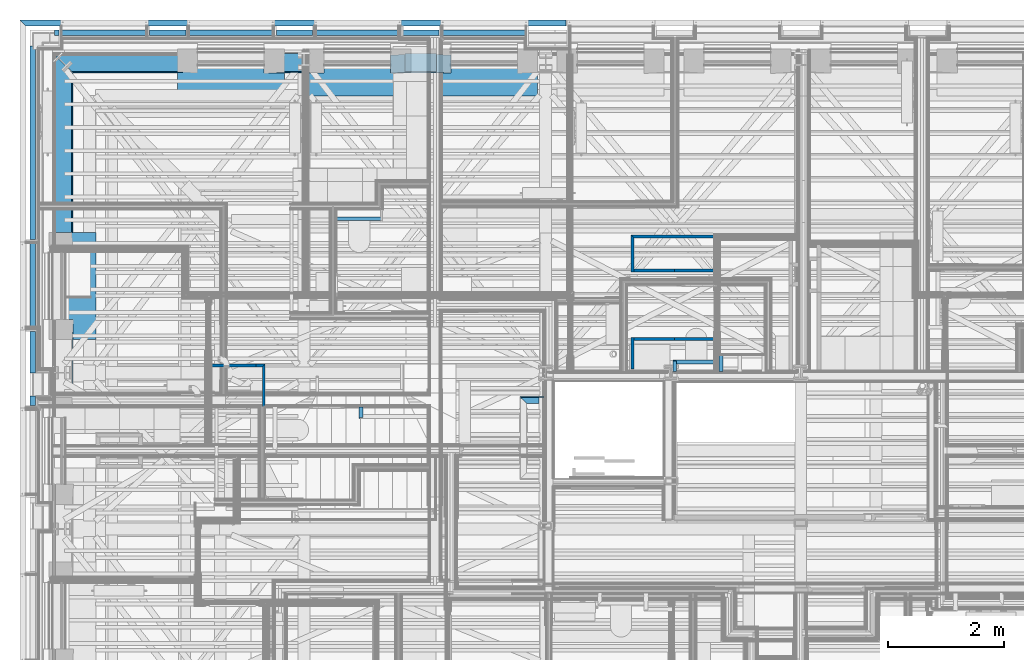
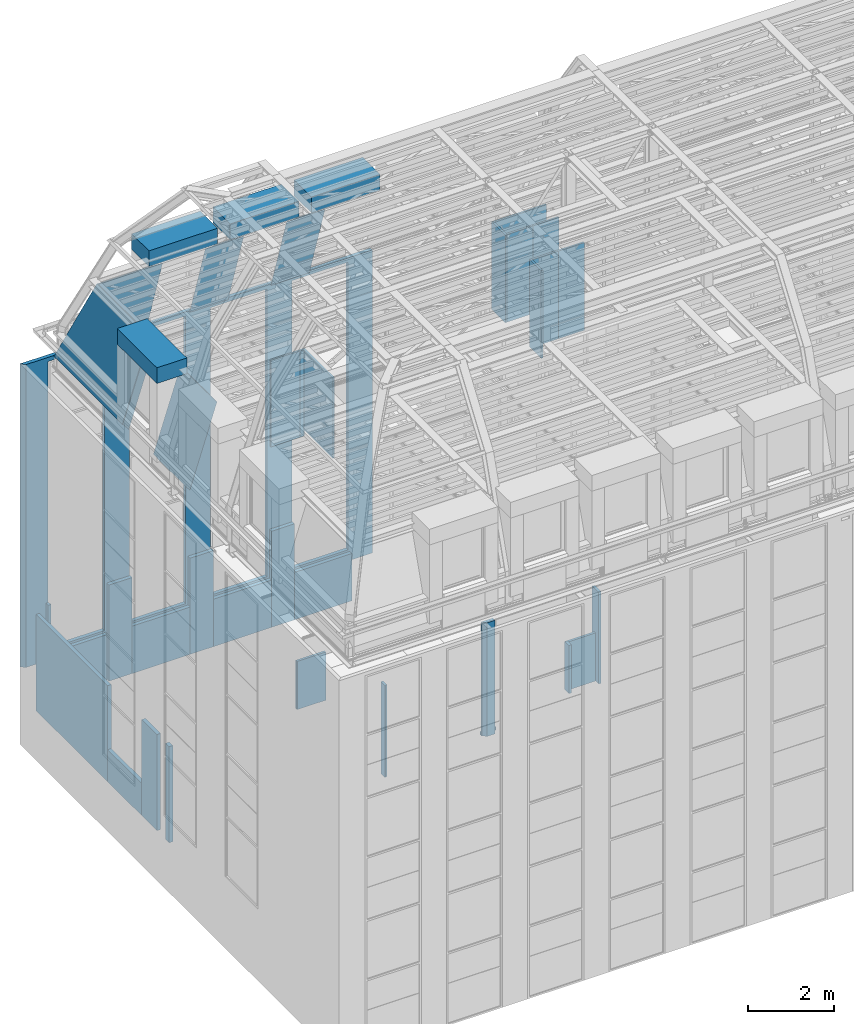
# One storey, part 16 of 183: 42 walls, 4 openings.
"""IFC2X3 building model written with IfcOpenShell, lengths in metres."""

from ifc_helpers import new_model, entity, si_unit, converted_unit, derived_unit, money_unit, direction, frame, frame_2d, origin_with_axes, place, context, subcontext, project, spatial, polyline, rectangle, outline, extrude, clip, halfspace, bounded_halfspace, material, layer, layer_set, layer_usage, type_object, element, save


model = new_model("IFC2X3")

# Units and contexts
model_context = context("Model", 3, precision=1e-05, world=origin_with_axes(), true_north=direction((0.0, 1.0)))
body_context = subcontext(model_context, "Body", "Model", "MODEL_VIEW", scale=1.0)
ifc_project = project(units=[si_unit("LENGTHUNIT", "METRE"), si_unit("AREAUNIT", "SQUARE_METRE"), si_unit("VOLUMEUNIT", "CUBIC_METRE"), si_unit("ABSORBEDDOSEUNIT", "GRAY"), si_unit("AMOUNTOFSUBSTANCEUNIT", "MOLE"), si_unit("DOSEEQUIVALENTUNIT", "SIEVERT"), si_unit("ELECTRICCAPACITANCEUNIT", "FARAD"), si_unit("ELECTRICCHARGEUNIT", "COULOMB"), si_unit("ELECTRICCONDUCTANCEUNIT", "SIEMENS"), si_unit("ELECTRICCURRENTUNIT", "AMPERE"), si_unit("ELECTRICRESISTANCEUNIT", "OHM"), si_unit("ELECTRICVOLTAGEUNIT", "VOLT"), si_unit("ENERGYUNIT", "JOULE"), si_unit("FORCEUNIT", "NEWTON"), si_unit("FREQUENCYUNIT", "HERTZ"), si_unit("ILLUMINANCEUNIT", "LUX"), si_unit("INDUCTANCEUNIT", "HENRY"), si_unit("LUMINOUSFLUXUNIT", "LUMEN"), si_unit("LUMINOUSINTENSITYUNIT", "CANDELA"), si_unit("MAGNETICFLUXDENSITYUNIT", "TESLA"), si_unit("MAGNETICFLUXUNIT", "WEBER"), si_unit("MASSUNIT", "GRAM"), converted_unit("PLANEANGLEUNIT", "degree", entity("IfcReal", 0.0174532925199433), si_unit("PLANEANGLEUNIT", "RADIAN"), dimensions=[0, 0, 0, 0, 0, 0, 0]), si_unit("POWERUNIT", "WATT"), si_unit("PRESSUREUNIT", "PASCAL"), si_unit("RADIOACTIVITYUNIT", "BECQUEREL"), si_unit("SOLIDANGLEUNIT", "STERADIAN"), si_unit("THERMODYNAMICTEMPERATUREUNIT", "KELVIN"), si_unit("TIMEUNIT", "SECOND"), derived_unit("ACCELERATIONUNIT", [(si_unit("LENGTHUNIT", "METRE"), 1), (si_unit("TIMEUNIT", "SECOND"), -2)]), derived_unit("ANGULARVELOCITYUNIT", [(converted_unit("PLANEANGLEUNIT", "degree", entity("IfcReal", 0.0174532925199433), si_unit("PLANEANGLEUNIT", "RADIAN"), dimensions=[0, 0, 0, 0, 0, 0, 0]), 1), (si_unit("TIMEUNIT", "SECOND"), -1)]), derived_unit("CURVATUREUNIT", [(converted_unit("PLANEANGLEUNIT", "degree", entity("IfcReal", 0.0174532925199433), si_unit("PLANEANGLEUNIT", "RADIAN"), dimensions=[0, 0, 0, 0, 0, 0, 0]), 1), (si_unit("LENGTHUNIT", "METRE"), -1)]), derived_unit("DYNAMICVISCOSITYUNIT", [(si_unit("PRESSUREUNIT", "PASCAL"), 1), (si_unit("TIMEUNIT", "SECOND"), 1)]), derived_unit("HEATFLUXDENSITYUNIT", [(si_unit("POWERUNIT", "WATT"), 1), (si_unit("LENGTHUNIT", "METRE"), -2)]), derived_unit("HEATINGVALUEUNIT", [(si_unit("ENERGYUNIT", "JOULE"), 1), (si_unit("MASSUNIT", "GRAM"), -1)]), derived_unit("INTEGERCOUNTRATEUNIT", [(si_unit("TIMEUNIT", "SECOND"), -1)]), derived_unit("IONCONCENTRATIONUNIT", [(si_unit("MASSUNIT", "GRAM"), 1), (si_unit("VOLUMEUNIT", "CUBIC_METRE"), -1)]), derived_unit("ISOTHERMALMOISTURECAPACITYUNIT", [(si_unit("VOLUMEUNIT", "CUBIC_METRE"), 1), (si_unit("MASSUNIT", "GRAM"), -1)]), derived_unit("KINEMATICVISCOSITYUNIT", [(si_unit("AREAUNIT", "SQUARE_METRE"), 1), (si_unit("TIMEUNIT", "SECOND"), -1)]), derived_unit("LINEARFORCEUNIT", [(si_unit("FORCEUNIT", "NEWTON"), 1), (si_unit("LENGTHUNIT", "METRE"), -1)]), derived_unit("LINEARMOMENTUNIT", [(si_unit("FORCEUNIT", "NEWTON"), 1), (si_unit("LENGTHUNIT", "METRE"), -1)]), derived_unit("LINEARSTIFFNESSUNIT", [(si_unit("FORCEUNIT", "NEWTON"), 1), (si_unit("LENGTHUNIT", "METRE"), -1)]), derived_unit("LINEARVELOCITYUNIT", [(si_unit("LENGTHUNIT", "METRE"), 1), (si_unit("TIMEUNIT", "SECOND"), -1)]), derived_unit("LUMINOUSINTENSITYDISTRIBUTIONUNIT", [(si_unit("LUMINOUSINTENSITYUNIT", "CANDELA"), 1), (si_unit("LUMINOUSFLUXUNIT", "LUMEN"), -1)]), derived_unit("MASSDENSITYUNIT", [(si_unit("MASSUNIT", "GRAM"), 1), (si_unit("VOLUMEUNIT", "CUBIC_METRE"), -1)]), derived_unit("MASSFLOWRATEUNIT", [(si_unit("MASSUNIT", "GRAM"), 1), (si_unit("TIMEUNIT", "SECOND"), -1)]), derived_unit("MASSPERLENGTHUNIT", [(si_unit("MASSUNIT", "GRAM"), 1), (si_unit("LENGTHUNIT", "METRE"), -1)]), derived_unit("MODULUSOFELASTICITYUNIT", [(si_unit("FORCEUNIT", "NEWTON"), 1), (si_unit("AREAUNIT", "SQUARE_METRE"), -1)]), derived_unit("MODULUSOFLINEARSUBGRADEREACTIONUNIT", [(si_unit("FORCEUNIT", "NEWTON"), 1), (si_unit("LENGTHUNIT", "METRE"), -2)]), derived_unit("MODULUSOFROTATIONALSUBGRADEREACTIONUNIT", [(si_unit("FORCEUNIT", "NEWTON"), 1), (si_unit("LENGTHUNIT", "METRE"), 1)]), derived_unit("MODULUSOFSUBGRADEREACTIONUNIT", [(si_unit("FORCEUNIT", "NEWTON"), 1), (si_unit("VOLUMEUNIT", "CUBIC_METRE"), -1)]), derived_unit("MOISTUREDIFFUSIVITYUNIT", [(si_unit("VOLUMEUNIT", "CUBIC_METRE"), 1), (si_unit("TIMEUNIT", "SECOND"), -1)]), derived_unit("MOLECULARWEIGHTUNIT", [(si_unit("MASSUNIT", "GRAM"), 1), (si_unit("AMOUNTOFSUBSTANCEUNIT", "MOLE"), -1)]), derived_unit("PLANARFORCEUNIT", [(si_unit("FORCEUNIT", "NEWTON"), 1), (si_unit("LENGTHUNIT", "METRE"), -2)]), derived_unit("ROTATIONALFREQUENCYUNIT", [(si_unit("TIMEUNIT", "SECOND"), -1)]), derived_unit("ROTATIONALMASSUNIT", [(si_unit("MASSUNIT", "GRAM"), 1), (si_unit("LENGTHUNIT", "METRE"), 2)]), derived_unit("ROTATIONALSTIFFNESSUNIT", [(si_unit("FORCEUNIT", "NEWTON"), 1), (si_unit("LENGTHUNIT", "METRE"), 1), (converted_unit("PLANEANGLEUNIT", "degree", entity("IfcReal", 0.0174532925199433), si_unit("PLANEANGLEUNIT", "RADIAN"), dimensions=[0, 0, 0, 0, 0, 0, 0]), -1)]), derived_unit("SECTIONAREAINTEGRALUNIT", [(si_unit("LENGTHUNIT", "METRE"), 5)]), derived_unit("SECTIONMODULUSUNIT", [(si_unit("LENGTHUNIT", "METRE"), 3)]), derived_unit("SHEARMODULUSUNIT", [(si_unit("FORCEUNIT", "NEWTON"), 1), (si_unit("AREAUNIT", "SQUARE_METRE"), -1)]), derived_unit("SOUNDPOWERUNIT", [(si_unit("ENERGYUNIT", "JOULE"), 1), (si_unit("TIMEUNIT", "SECOND"), -1)]), derived_unit("SPECIFICHEATCAPACITYUNIT", [(si_unit("FORCEUNIT", "NEWTON"), 1), (si_unit("MASSUNIT", "GRAM"), -1), (si_unit("THERMODYNAMICTEMPERATUREUNIT", "KELVIN"), -1)]), derived_unit("TEMPERATUREGRADIENTUNIT", [(si_unit("THERMODYNAMICTEMPERATUREUNIT", "KELVIN"), 1), (si_unit("LENGTHUNIT", "METRE"), -1)]), derived_unit("THERMALADMITTANCEUNIT", [(si_unit("POWERUNIT", "WATT"), 1), (si_unit("AREAUNIT", "SQUARE_METRE"), -1), (si_unit("THERMODYNAMICTEMPERATUREUNIT", "KELVIN"), -1)]), derived_unit("THERMALCONDUCTANCEUNIT", [(si_unit("POWERUNIT", "WATT"), 1), (si_unit("LENGTHUNIT", "METRE"), -1), (si_unit("THERMODYNAMICTEMPERATUREUNIT", "KELVIN"), -1)]), derived_unit("THERMALEXPANSIONCOEFFICIENTUNIT", [(si_unit("THERMODYNAMICTEMPERATUREUNIT", "KELVIN"), -1)]), derived_unit("THERMALRESISTANCEUNIT", [(si_unit("AREAUNIT", "SQUARE_METRE"), 1), (si_unit("POWERUNIT", "WATT"), -1)]), derived_unit("THERMALTRANSMITTANCEUNIT", [(si_unit("POWERUNIT", "WATT"), 1), (si_unit("AREAUNIT", "SQUARE_METRE"), -1), (si_unit("THERMODYNAMICTEMPERATUREUNIT", "KELVIN"), -1)]), derived_unit("TORQUEUNIT", [(si_unit("FORCEUNIT", "NEWTON"), 1), (si_unit("LENGTHUNIT", "METRE"), 1)]), derived_unit("VAPORPERMEABILITYUNIT", [(si_unit("MASSUNIT", "GRAM"), 1), (si_unit("TIMEUNIT", "SECOND"), -1)]), derived_unit("VOLUMETRICFLOWRATEUNIT", [(si_unit("VOLUMEUNIT", "CUBIC_METRE"), 1), (si_unit("TIMEUNIT", "SECOND"), -1)]), derived_unit("WARPINGCONSTANTUNIT", [(si_unit("LENGTHUNIT", "METRE"), 6)]), derived_unit("WARPINGMOMENTUNIT", [(si_unit("FORCEUNIT", "NEWTON"), 1), (si_unit("LENGTHUNIT", "METRE"), 2)]), money_unit("GBP")], contexts=[model_context])

# Site, building, storey
site_placement = place(None, origin_with_axes())
site = spatial("IfcSite", under=ifc_project, at=site_placement, Name="Site", CompositionType="ELEMENT")
building_placement = place(site_placement, origin_with_axes())
building = spatial("IfcBuilding", under=site, at=building_placement, Name="Building01", CompositionType="ELEMENT")
storey_placement = place(building_placement, frame((0.0, 0.0, 5.15), z_axis=(0.0, 0.0, 1.0), x_axis=(1.0, 0.0, 0.0)))
storey = spatial("IfcBuildingStorey", under=building, at=storey_placement, Name="1F", CompositionType="ELEMENT", Elevation=5.15)

# Wall, openings
ifc_material_1 = material(Name="A_BSUK_WallsExternal_Brick")
ifc_layer_1 = layer(ifc_material_1, 0.1, ventilated=False)
ifc_layer_set_1 = layer_set([ifc_layer_1])
ifc_layer_usage_1 = layer_usage(ifc_layer_set_1, "AXIS2", "POSITIVE", 0.0)
wall_type_1 = type_object("IfcWallType", Name="A-Walls-ExternalBrick", PredefinedType="NOTDEFINED")
wall_1_placement = place(storey_placement, frame((9.443277, 14.9, 1.035), z_axis=(0.0, 0.0, 1.0), x_axis=(-1.0, 0.0, 0.0)))
wall_1 = element("IfcWallStandardCase", 1, at=wall_1_placement, inside=storey, type_object=wall_type_1, material=ifc_layer_usage_1, Name="A-Walls-ExternalBrick", ObjectType="A-Walls-ExternalBrick", context=body_context, shape_type="SweptSolid", body=[
    extrude(outline(polyline([(9.343277, 0.1), (0.0, 0.1), (0.0, 0.0), (9.443277, 0.0), (9.343277, 0.1)])), origin_with_axes(), (0.0, 0.0, 1.0), 8.635238),
])
opening_1_placement = place(wall_1_placement, frame((0.653277, 0.0, 0.315918), z_axis=(0.0, 0.0, 1.0), x_axis=(1.0, 0.0, 0.0)))
element("IfcOpeningElement", 2, at=opening_1_placement, cuts=wall_1, Name="Opening", ObjectType="Opening", context=body_context, shape_type="SweptSolid", body=[
    extrude(rectangle(XDim=1.52, YDim=8.2, at=frame_2d((-0.76, 4.1), x_axis=(1.0, 0.0))), frame((0.0, 0.0, 0.0), z_axis=(0.0, 1.0, 0.0), x_axis=(-1.0, 0.0, 0.0)), (0.0, 0.0, 1.0), 0.1),
])
opening_2_placement = place(wall_1_placement, frame((2.843277, 0.0, 0.315918), z_axis=(0.0, 0.0, 1.0), x_axis=(1.0, 0.0, 0.0)))
element("IfcOpeningElement", 3, at=opening_2_placement, cuts=wall_1, Name="Opening", ObjectType="Opening", context=body_context, shape_type="SweptSolid", body=[
    extrude(rectangle(XDim=1.52, YDim=8.2, at=frame_2d((-0.76, 4.1), x_axis=(1.0, 0.0))), frame((0.0, 0.0, 0.0), z_axis=(0.0, 1.0, 0.0), x_axis=(-1.0, 0.0, 0.0)), (0.0, 0.0, 1.0), 0.1),
])
opening_3_placement = place(wall_1_placement, frame((5.033277, 0.0, 0.315918), z_axis=(0.0, 0.0, 1.0), x_axis=(1.0, 0.0, 0.0)))
element("IfcOpeningElement", 4, at=opening_3_placement, cuts=wall_1, Name="Opening", ObjectType="Opening", context=body_context, shape_type="SweptSolid", body=[
    extrude(rectangle(XDim=1.52, YDim=8.2, at=frame_2d((-0.76, 4.1), x_axis=(1.0, 0.0))), frame((0.0, 0.0, 0.0), z_axis=(0.0, 1.0, 0.0), x_axis=(-1.0, 0.0, 0.0)), (0.0, 0.0, 1.0), 0.1),
])
opening_4_placement = place(wall_1_placement, frame((7.223277, 0.0, 0.315918), z_axis=(0.0, 0.0, 1.0), x_axis=(1.0, 0.0, 0.0)))
element("IfcOpeningElement", 5, at=opening_4_placement, cuts=wall_1, Name="Opening", ObjectType="Opening", context=body_context, shape_type="SweptSolid", body=[
    extrude(rectangle(XDim=1.52, YDim=8.2, at=frame_2d((-0.76, 4.1), x_axis=(1.0, 0.0))), frame((0.0, 0.0, 0.0), z_axis=(0.0, 1.0, 0.0), x_axis=(-1.0, 0.0, 0.0)), (0.0, 0.0, 1.0), 0.1),
])

# Walls
ifc_material_2 = material(Name="A_BSUK_WallsExternal_Block")
ifc_layer_2 = layer(ifc_material_2, 0.1, ventilated=False)
ifc_layer_set_2 = layer_set([ifc_layer_2])
ifc_layer_usage_2 = layer_usage(ifc_layer_set_2, "AXIS2", "POSITIVE", 0.0)
wall_type_2 = type_object("IfcWallType", Name="A-Walls-ExternalBlock", PredefinedType="NOTDEFINED")
wall_2_placement = place(storey_placement, frame((0.6, 14.63, 0.0), z_axis=(0.0, 0.0, 1.0), x_axis=(1.0, 0.0, 0.0)))
element("IfcWallStandardCase", 6, at=wall_2_placement, inside=storey, type_object=wall_type_2, material=ifc_layer_usage_2, Name="A-Walls-ExternalBlock", ObjectType="A-Walls-ExternalBlock", context=body_context, shape_type="SweptSolid", body=[
    extrude(rectangle(XDim=0.077, YDim=0.1, at=frame_2d((0.0385, 0.05), x_axis=(-1.0, 0.0))), origin_with_axes(), (0.0, 0.0, 1.0), 2.74),
])
wall_3_placement = place(storey_placement, frame((0.17, 14.45, 0.0), z_axis=(0.0, 0.0, 1.0), x_axis=(0.0, -1.0, 0.0)))
element("IfcWallStandardCase", 7, at=wall_3_placement, inside=storey, type_object=wall_type_2, material=ifc_layer_usage_2, Name="A-Walls-ExternalBlock", ObjectType="A-Walls-ExternalBlock", context=body_context, shape_type="SweptSolid", body=[
    extrude(rectangle(XDim=3.347, YDim=0.1, at=frame_2d((1.6735, 0.05), x_axis=(-1.0, 0.0))), origin_with_axes(), (0.0, 0.0, 1.0), 2.74),
])
wall_4_placement = place(storey_placement, frame((0.17, 8.4, 0.0), z_axis=(0.0, 0.0, 1.0), x_axis=(0.0, -1.0, 0.0)))
element("IfcWallStandardCase", 8, at=wall_4_placement, inside=storey, type_object=wall_type_2, material=ifc_layer_usage_2, Name="A-Walls-ExternalBlock", ObjectType="A-Walls-ExternalBlock", context=body_context, shape_type="SweptSolid", body=[
    extrude(rectangle(XDim=0.167, YDim=0.1, at=frame_2d((0.0835, 0.05), x_axis=(-1.0, 0.0))), origin_with_axes(), (0.0, 0.0, 1.0), 2.74),
])
for number, where, z_axis, x_axis, name in (
    (9, (2.243, 14.63, 0.0), (0.0, 0.0, 1.0), (1.0, 0.0, 0.0), "A-Walls-ExternalBlock"),
    (10, (4.433, 14.63, 0.0), (0.0, 0.0, 1.0), (1.0, 0.0, 0.0), "A-Walls-ExternalBlock"),
):
    element("IfcWallStandardCase", number, at=place(storey_placement, frame(where, z_axis=z_axis, x_axis=x_axis)), inside=storey, type_object=wall_type_2, material=ifc_layer_usage_2, Name=name, ObjectType="A-Walls-ExternalBlock", context=body_context, shape_type="SweptSolid", body=[
        extrude(rectangle(XDim=0.624, YDim=0.1, at=frame_2d((0.312, 0.05), x_axis=(-1.0, 0.0))), origin_with_axes(), (0.0, 0.0, 1.0), 2.74),
    ])
wall_5_placement = place(storey_placement, frame((6.622876, 14.63, 0.0), z_axis=(0.0, 0.0, 1.0), x_axis=(1.0, 0.0, 0.0)))
element("IfcWallStandardCase", 11, at=wall_5_placement, inside=storey, type_object=wall_type_2, material=ifc_layer_usage_2, Name="A-Walls-ExternalBlock", ObjectType="A-Walls-ExternalBlock", context=body_context, shape_type="SweptSolid", body=[
    extrude(rectangle(XDim=0.624124, YDim=0.1, at=frame_2d((0.312062, 0.05), x_axis=(-1.0, 0.0))), origin_with_axes(), (0.0, 0.0, 1.0), 2.74),
])
wall_6_placement = place(storey_placement, frame((0.17, 11.103, 0.0), z_axis=(0.0, 0.0, 1.0), x_axis=(0.0, -1.0, 0.0)))
element("IfcWallStandardCase", 12, at=wall_6_placement, inside=storey, type_object=wall_type_2, material=ifc_layer_usage_2, Name="A-Walls-ExternalBlock", ObjectType="A-Walls-ExternalBlock", context=body_context, shape_type="SweptSolid", body=[
    extrude(rectangle(XDim=1.58882, YDim=0.1, at=frame_2d((0.79441, 0.05), x_axis=(1.0, 0.0))), origin_with_axes(), (0.0, 0.0, 1.0), 0.915),
])
wall_7_placement = place(storey_placement, frame((0.677, 14.63, 0.0), z_axis=(0.0, 0.0, 1.0), x_axis=(1.0, 0.0, 0.0)))
element("IfcWallStandardCase", 13, at=wall_7_placement, inside=storey, type_object=wall_type_2, material=ifc_layer_usage_2, Name="A-Walls-ExternalBlock", ObjectType="A-Walls-ExternalBlock", context=body_context, shape_type="SweptSolid", body=[
    extrude(rectangle(XDim=1.518, YDim=0.1, at=frame_2d((0.759, 0.05), x_axis=(-1.0, 0.0))), origin_with_axes(), (0.0, 0.0, 1.0), 1.35),
])
for number, where, z_axis, x_axis, name in (
    (14, (2.867, 14.63, 0.0), (0.0, 0.0, 1.0), (1.0, 0.0, 0.0), "A-Walls-ExternalBlock"),
    (15, (5.056876, 14.63, 0.0), (0.0, 0.0, 1.0), (1.0, 0.0, 0.0), "A-Walls-ExternalBlock"),
    (16, (7.224, 14.63, 0.0), (0.0, 0.0, 1.0), (1.0, 0.0, 0.0), "A-Walls-ExternalBlock"),
):
    element("IfcWallStandardCase", number, at=place(storey_placement, frame(where, z_axis=z_axis, x_axis=x_axis)), inside=storey, type_object=wall_type_2, material=ifc_layer_usage_2, Name=name, ObjectType="A-Walls-ExternalBlock", context=body_context, shape_type="SweptSolid", body=[
        extrude(rectangle(XDim=1.566, YDim=0.1, at=frame_2d((0.783, 0.05), x_axis=(1.0, 0.0))), origin_with_axes(), (0.0, 0.0, 1.0), 1.35),
    ])
wall_8_placement = place(storey_placement, frame((0.17, 9.51418, 0.0), z_axis=(0.0, 0.0, 1.0), x_axis=(0.0, -1.0, 0.0)))
element("IfcWallStandardCase", 17, at=wall_8_placement, inside=storey, type_object=wall_type_2, material=ifc_layer_usage_2, Name="A-Walls-ExternalBlock", ObjectType="A-Walls-ExternalBlock", context=body_context, shape_type="SweptSolid", body=[
    extrude(rectangle(XDim=0.1, YDim=0.714171, at=frame_2d((0.357085, 0.05), x_axis=(0.0, -1.0))), origin_with_axes(), (0.0, 0.0, 1.0), 2.74),
])
ifc_material_3 = material(Name="A_BSUK_WallsInternal")
ifc_layer_3 = layer(ifc_material_3, 0.05, ventilated=False)
ifc_layer_set_3 = layer_set([ifc_layer_3])
ifc_layer_usage_3 = layer_usage(ifc_layer_set_3, "AXIS2", "POSITIVE", 0.0)
wall_type_3 = type_object("IfcWallType", Name="A-Walls-Internal", PredefinedType="NOTDEFINED")
wall_9_placement = place(storey_placement, frame((4.24, 7.549939, 9.96), z_axis=(0.0, 0.0, 1.0), x_axis=(0.0, 1.0, 0.0)))
element("IfcWallStandardCase", 18, at=wall_9_placement, inside=storey, type_object=wall_type_3, material=ifc_layer_usage_3, Name="A-Walls-Internal", ObjectType="A-Walls-Internal", context=body_context, shape_type="SweptSolid", body=[
    extrude(outline(polyline([(1.35, 0.05), (0.0, 0.05), (0.0, 0.0), (1.4, 0.0), (1.35, 0.05)])), origin_with_axes(), (0.0, 0.0, 1.0), 2.288),
])
wall_10_placement = place(storey_placement, frame((4.24, 8.949939, 9.78), z_axis=(0.0, 0.0, 1.0), x_axis=(-1.0, 0.0, 0.0)))
element("IfcWallStandardCase", 19, at=wall_10_placement, inside=storey, type_object=wall_type_3, material=ifc_layer_usage_3, Name="A-Walls-Internal", ObjectType="A-Walls-Internal", context=body_context, shape_type="SweptSolid", body=[
    extrude(outline(polyline([(0.05, 0.05), (0.0, 0.0), (0.155, 0.0), (0.155, 0.05), (0.05, 0.05)])), origin_with_axes(), (0.0, 0.0, 1.0), 2.468),
])
wall_11_placement = place(storey_placement, frame((4.085, 8.949939, 9.78), z_axis=(0.0, 0.0, 1.0), x_axis=(-1.0, 0.0, 0.0)))
element("IfcWallStandardCase", 20, at=wall_11_placement, inside=storey, type_object=wall_type_3, material=ifc_layer_usage_3, Name="A-Walls-Internal", ObjectType="A-Walls-Internal", context=body_context, shape_type="SweptSolid", body=[
    extrude(rectangle(XDim=0.785, YDim=0.05, at=frame_2d((0.3925, 0.025), x_axis=(1.0, 0.0))), origin_with_axes(), (0.0, 0.0, 1.0), 2.468),
])
wall_12_placement = place(storey_placement, frame((12.017381, 9.41, 9.78), z_axis=(0.0, 0.0, 1.0), x_axis=(-1.0, 0.0, 0.0)))
element("IfcWallStandardCase", 21, at=wall_12_placement, inside=storey, type_object=wall_type_3, material=ifc_layer_usage_3, Name="A-Walls-Internal", ObjectType="A-Walls-Internal", context=body_context, shape_type="SweptSolid", body=[
    extrude(rectangle(XDim=0.05, YDim=0.7, at=frame_2d((0.35, 0.025), x_axis=(0.0, -1.0))), origin_with_axes(), (0.0, 0.0, 1.0), 2.5),
])
wall_13_placement = place(storey_placement, frame((11.317381, 9.41, 9.78), z_axis=(0.0, 0.0, 1.0), x_axis=(-1.0, 0.0, 0.0)))
element("IfcWallStandardCase", 22, at=wall_13_placement, inside=storey, type_object=wall_type_3, material=ifc_layer_usage_3, Name="A-Walls-Internal", ObjectType="A-Walls-Internal", context=body_context, shape_type="SweptSolid", body=[
    extrude(rectangle(XDim=0.7, YDim=0.05, at=frame_2d((0.35, 0.025), x_axis=(-1.0, 0.0))), origin_with_axes(), (0.0, 0.0, 1.0), 2.5),
])
wall_14_placement = place(storey_placement, frame((10.567381, 9.41, 9.78), z_axis=(0.0, 0.0, 1.0), x_axis=(0.0, -1.0, 0.0)))
element("IfcWallStandardCase", 23, at=wall_14_placement, inside=storey, type_object=wall_type_3, material=ifc_layer_usage_3, Name="A-Walls-Internal", ObjectType="A-Walls-Internal", context=body_context, shape_type="SweptSolid", body=[
    extrude(rectangle(XDim=0.05, YDim=0.542367, at=frame_2d((0.271184, 0.025), x_axis=(0.0, -1.0))), origin_with_axes(), (0.0, 0.0, 1.0), 2.5),
])
wall_15_placement = place(storey_placement, frame((11.317381, 10.593849, 9.78), z_axis=(0.0, 0.0, 1.0), x_axis=(-1.0, 0.0, 0.0)))
element("IfcWallStandardCase", 24, at=wall_15_placement, inside=storey, type_object=wall_type_3, material=ifc_layer_usage_3, Name="A-Walls-Internal", ObjectType="A-Walls-Internal", context=body_context, shape_type="SweptSolid", body=[
    extrude(rectangle(XDim=0.7, YDim=0.05, at=frame_2d((0.35, 0.025), x_axis=(-1.0, 0.0))), origin_with_axes(), (0.0, 0.0, 1.0), 2.5),
])
wall_16_placement = place(storey_placement, frame((12.017381, 10.593849, 9.78), z_axis=(0.0, 0.0, 1.0), x_axis=(-1.0, 0.0, 0.0)))
element("IfcWallStandardCase", 25, at=wall_16_placement, inside=storey, type_object=wall_type_3, material=ifc_layer_usage_3, Name="A-Walls-Internal", ObjectType="A-Walls-Internal", context=body_context, shape_type="SweptSolid", body=[
    extrude(rectangle(XDim=0.05, YDim=0.7, at=frame_2d((0.35, 0.025), x_axis=(0.0, -1.0))), origin_with_axes(), (0.0, 0.0, 1.0), 2.5),
])
wall_17_placement = place(storey_placement, frame((10.567381, 11.183849, 9.78), z_axis=(0.0, 0.0, 1.0), x_axis=(0.0, -1.0, 0.0)))
element("IfcWallStandardCase", 26, at=wall_17_placement, inside=storey, type_object=wall_type_3, material=ifc_layer_usage_3, Name="A-Walls-Internal", ObjectType="A-Walls-Internal", context=body_context, shape_type="SweptSolid", body=[
    extrude(outline(polyline([(0.64, 0.05), (0.05, 0.05), (0.0, 0.0), (0.64, 0.0), (0.64, 0.05)])), origin_with_axes(), (0.0, 0.0, 1.0), 2.5),
])
wall_18_placement = place(storey_placement, frame((12.017381, 11.183849, 9.78), z_axis=(0.0, 0.0, 1.0), x_axis=(-1.0, 0.0, 0.0)))
element("IfcWallStandardCase", 27, at=wall_18_placement, inside=storey, type_object=wall_type_3, material=ifc_layer_usage_3, Name="A-Walls-Internal", ObjectType="A-Walls-Internal", context=body_context, shape_type="SweptSolid", body=[
    extrude(outline(polyline([(1.4, 0.05), (0.0, 0.05), (0.0, 0.0), (1.45, 0.0), (1.4, 0.05)])), origin_with_axes(), (0.0, 0.0, 1.0), 2.5),
])
ifc_material_4 = material(Name="A_BSUK_OpeningsClearance")
ifc_layer_4 = layer(ifc_material_4, 0.05, ventilated=False)
ifc_material_5 = material(Name="A_BSUK_Walls_Timber")
ifc_layer_5 = layer(ifc_material_5, 0.015, ventilated=False)
ifc_layer_set_4 = layer_set([ifc_layer_4, ifc_layer_5])
ifc_layer_usage_4 = layer_usage(ifc_layer_set_4, "AXIS2", "POSITIVE", 0.0)
wall_type_4 = type_object("IfcWallType", Name="SHE_A-Walls_Type05c_PreWallShell_65mm", PredefinedType="NOTDEFINED")
wall_19_placement = place(storey_placement, frame((12.153871, 8.82, 0.0), z_axis=(0.0, 0.0, 1.0), x_axis=(0.0, 1.0, 0.0)))
element("IfcWallStandardCase", 28, at=wall_19_placement, inside=storey, type_object=wall_type_4, material=ifc_layer_usage_4, Name="5C", ObjectType="SHE_A-Walls_Type05c_PreWallShell_65mm", context=body_context, shape_type="SweptSolid", body=[
    extrude(outline(polyline([(0.285, 0.05), (0.3, 0.05), (0.3, 0.065), (0.0, 0.065), (0.0, 0.0), (0.285, 0.0), (0.285, 0.05)])), origin_with_axes(), (0.0, 0.0, 1.0), 2.615),
])
ifc_layer_set_5 = layer_set([ifc_layer_5, ifc_layer_4])
ifc_layer_usage_5 = layer_usage(ifc_layer_set_5, "AXIS2", "POSITIVE", 0.0)
wall_20_placement = place(storey_placement, frame((5.464669, 11.495672, 0.0), z_axis=(0.0, 0.0, 1.0), x_axis=(1.0, 0.0, 0.0)))
element("IfcWallStandardCase", 29, at=wall_20_placement, inside=storey, type_object=wall_type_4, material=ifc_layer_usage_5, Name="5C", ObjectType="SHE_A-Walls_Type05c_PreWallShell_65mm", context=body_context, shape_type="SweptSolid", body=[
    extrude(outline(polyline([(0.775, 0.0), (0.0, 0.0), (0.0, -0.05), (0.015, -0.05), (0.015, -0.065), (0.775, -0.065), (0.775, 0.0)])), origin_with_axes(), (0.0, 0.0, 1.0), 1.375),
])
wall_21_placement = place(storey_placement, frame((12.103871, 8.954996, 0.0), z_axis=(0.0, 0.0, 1.0), x_axis=(-1.0, 0.0, 0.0)))
element("IfcWallStandardCase", 30, at=wall_21_placement, inside=storey, type_object=wall_type_4, material=ifc_layer_usage_5, Name="5C", ObjectType="SHE_A-Walls_Type05c_PreWallShell_65mm", context=body_context, shape_type="SweptSolid", body=[
    extrude(outline(polyline([(0.749998, -0.05), (0.749998, 0.0), (0.0, 0.0), (0.0, -0.05), (0.015, -0.05), (0.015, -0.065), (0.799998, -0.065), (0.799998, -0.05), (0.749998, -0.05)])), origin_with_axes(), (0.0, 0.0, 1.0), 1.375),
])
wall_22_placement = place(storey_placement, frame((11.353873, 8.82, 0.0), z_axis=(0.0, 0.0, 1.0), x_axis=(0.0, 1.0, 0.0)))
element("IfcWallStandardCase", 31, at=wall_22_placement, inside=storey, type_object=wall_type_4, material=ifc_layer_usage_4, Name="5C", ObjectType="SHE_A-Walls_Type05c_PreWallShell_65mm", context=body_context, shape_type="SweptSolid", body=[
    extrude(outline(polyline([(0.184996, 0.05), (0.199996, 0.05), (0.199996, 0.065), (0.0, 0.065), (0.0, 0.0), (0.184996, 0.0), (0.184996, 0.05)])), origin_with_axes(), (0.0, 0.0, 1.0), 1.375),
])
wall_23_placement = place(storey_placement, frame((5.929669, 8.21067, 0.0), z_axis=(0.0, 0.0, 1.0), x_axis=(0.0, 1.0, 0.0)))
element("IfcWallStandardCase", 32, at=wall_23_placement, inside=storey, type_object=wall_type_4, material=ifc_layer_usage_4, Name="5C", ObjectType="SHE_A-Walls_Type05c_PreWallShell_65mm", context=body_context, shape_type="SweptSolid", body=[
    extrude(outline(polyline([(0.0, 0.0), (0.0, 0.065), (-0.2, 0.065), (-0.2, 0.05), (-0.185, 0.05), (-0.185, 0.0), (0.0, 0.0)])), origin_with_axes(), (0.0, 0.0, 1.0), 2.615),
])
ifc_material_6 = material(Name="A_BSUK_Roofs")
wall_type_5 = type_object("IfcWallType", Name="A-Walls-ExternalBlock", PredefinedType="NOTDEFINED")
for number, where, z_axis, x_axis, name in (
    (33, (2.720049, 13.590035, 12.729998), (1.0, 0.0, 0.0), (0.0, -1.0, 0.0), "7C"),
    (34, (4.910049, 13.590035, 12.729998), (1.0, 0.0, 0.0), (0.0, -1.0, 0.0), "7C"),
    (35, (7.100049, 13.590035, 12.729998), (1.0, 0.0, 0.0), (0.0, -1.0, 0.0), "7C"),
):
    element("IfcWall", number, at=place(storey_placement, frame(where, z_axis=z_axis, x_axis=x_axis)), inside=storey, type_object=wall_type_5, material=ifc_material_6, Name=name, ObjectType="A-Walls-ExternalBlock", context=body_context, shape_type="SweptSolid", body=[
        extrude(rectangle(XDim=0.81, YDim=0.45, at=frame_2d((-0.405, 0.225), x_axis=(-1.0, 0.0))), origin_with_axes(), (0.0, 0.0, 1.0), 1.849951),
    ])
wall_24_placement = place(storey_placement, frame((1.309904, 11.224891, 12.729998), z_axis=(0.0, -1.0, 0.0), x_axis=(-1.0, 0.0, 0.0)))
element("IfcWall", 36, at=wall_24_placement, inside=storey, type_object=wall_type_5, material=ifc_material_6, Name="7C", ObjectType="A-Walls-ExternalBlock", context=body_context, shape_type="SweptSolid", body=[
    extrude(rectangle(XDim=0.81, YDim=0.45, at=frame_2d((0.405, 0.225), x_axis=(1.0, 0.0))), origin_with_axes(), (0.0, 0.0, 1.0), 1.849951),
])
ifc_material_7 = material(Name="A_BSUK_WallInternal_Finishes_Plasterboard")
ifc_layer_6 = layer(ifc_material_7, 0.015, ventilated=False)
ifc_material_8 = material(Name="Air Cavity")
ifc_layer_7 = layer(ifc_material_8, 0.072, ventilated=False)
ifc_layer_set_6 = layer_set([ifc_layer_6, ifc_layer_7, ifc_layer_6, ifc_layer_5])
ifc_layer_usage_6 = layer_usage(ifc_layer_set_6, "AXIS2", "POSITIVE", 0.0)
wall_type_6 = type_object("IfcWallType", Name="SHE_A-Walls_Type04c_RiserWall_102mm_tall", PredefinedType="NOTDEFINED")
wall_25_placement = place(storey_placement, frame((8.658, 8.372405, 0.015), z_axis=(0.0, 0.0, 1.0), x_axis=(1.0, 0.0, 0.0)))
element("IfcWallStandardCase", 37, at=wall_25_placement, inside=storey, type_object=wall_type_6, material=ifc_layer_usage_6, Name="4C", ObjectType="SHE_A-Walls_Type04c_RiserWall_102mm_tall", context=body_context, shape_type="Clipping", body=[
    clip(clip(extrude(outline(polyline([(0.317, 0.0), (0.402, 0.0), (0.402, 0.015), (-0.015, 0.015), (0.0, 0.0), (0.0, -0.015), (0.015, -0.015), (0.102, -0.102), (0.317, -0.102), (0.317, 0.0)])), frame((0.0, 0.0, -0.015), z_axis=(0.0, 0.0, 1.0), x_axis=(1.0, 0.0, 0.0)), (0.0, 0.0, 1.0), 3.24), bounded_halfspace(frame((0.0, 0.0, 0.1), z_axis=(0.0, 0.0, 1.0), x_axis=(1.0, 0.0, 0.0)), False, frame((0.0, 0.0, 0.1), z_axis=(0.0, 0.0, 1.0), x_axis=(1.0, 0.0, 0.0)), polyline([(0.402, 0.015), (-0.015, 0.015), (0.0, 0.0), (0.402, 0.0), (0.402, 0.015)]))), bounded_halfspace(frame((0.0, 0.0, 0.0), z_axis=(0.0, 0.0, -1.0), x_axis=(-1.0, 0.0, 0.0)), False, frame((0.0, 0.0, 0.0), z_axis=(0.0, 0.0, -1.0), x_axis=(-1.0, 0.0, 0.0)), polyline([(-0.402, 0.0), (0.0, 0.0), (0.015, 0.015), (-0.402, 0.015), (-0.402, 0.0)]))),
])
wall_type_7 = type_object("IfcWallType", Name="A-Walls-Internal", PredefinedType="NOTDEFINED")
wall_26_placement = place(storey_placement, frame((0.5788, 11.124915, 10.03), z_axis=(0.30901699, 0.0, 0.95105652), x_axis=(0.0, 1.0, 0.0)))
element("IfcWall", 38, at=wall_26_placement, inside=storey, type_object=wall_type_7, material=ifc_material_3, Name="7C", ObjectType="A-Walls-Internal", context=body_context, shape_type="Clipping", body=[
    clip(extrude(outline(polyline([(3.196285, 0.0), (0.0, 0.0), (0.0, -0.015), (3.182019, -0.015), (3.196285, 0.0)])), origin_with_axes(), (0.0, 0.0, 1.0), 2.373987), halfspace(frame((1.598142, -1.519924, 0.493853), z_axis=(-0.70710678, 0.67249851, -0.21850801), x_axis=(-0.68915176, -0.72461704, 0.0)), True)),
])
wall_27_placement = place(storey_placement, frame((0.5788, 14.3212, 10.03), z_axis=(0.0, -0.30901699, 0.95105652), x_axis=(1.0, 0.0, 0.0)))
element("IfcWall", 39, at=wall_27_placement, inside=storey, type_object=wall_type_7, material=ifc_material_3, Name="7C", ObjectType="A-Walls-Internal", context=body_context, shape_type="Clipping", body=[
    clip(extrude(outline(polyline([(2.241224, 0.0), (0.0, 0.0), (0.014266, -0.015), (2.241224, -0.015), (2.241224, 0.0)])), origin_with_axes(), (0.0, 0.0, 1.0), 2.373987), halfspace(frame((0.0, 0.0, 0.0), z_axis=(0.70710678, 0.67249851, -0.21850801), x_axis=(-0.68915176, 0.72461704, 0.0)), True)),
])
for number, where, z_axis, x_axis, name in (
    (40, (4.469976, 14.3212, 10.03), (0.0, -0.30901699, 0.95105652), (1.0, 0.0, 0.0), "7C"),
    (41, (6.659976, 14.3212, 10.03), (0.0, -0.30901699, 0.95105652), (1.0, 0.0, 0.0), "7C"),
):
    element("IfcWall", number, at=place(storey_placement, frame(where, z_axis=z_axis, x_axis=x_axis)), inside=storey, type_object=wall_type_7, material=ifc_material_3, Name=name, ObjectType="A-Walls-Internal", context=body_context, shape_type="SweptSolid", body=[
        extrude(rectangle(XDim=0.540049, YDim=0.015, at=frame_2d((0.270024, -0.0075), x_axis=(-1.0, 0.0))), origin_with_axes(), (0.0, 0.0, 1.0), 2.373987),
    ])
wall_28_placement = place(storey_placement, frame((0.594428, 14.305572, 10.029557), z_axis=(0.0, -0.30901699, 0.95105652), x_axis=(1.0, 0.0, 0.0)))
element("IfcWall", 42, at=wall_28_placement, inside=storey, type_object=wall_type_7, material=ifc_material_3, Name="7C", ObjectType="A-Walls-Internal", context=body_context, shape_type="Clipping", body=[
    clip(extrude(outline(polyline([(2.225596, 0.0), (0.0, 0.0), (0.014266, -0.015), (2.475596, -0.015), (2.225596, 0.0)])), origin_with_axes(), (0.0, 0.0, 1.0), 2.373987), halfspace(frame((0.0, 0.0, 0.0), z_axis=(0.70710678, 0.67249851, -0.21850801), x_axis=(-0.68915176, 0.72461704, 0.0)), True)),
])
wall_29_placement = place(storey_placement, frame((0.594428, 11.124915, 10.029557), z_axis=(0.30901699, 0.0, 0.95105652), x_axis=(0.0, 1.0, 0.0)))
element("IfcWall", 43, at=wall_29_placement, inside=storey, type_object=wall_type_7, material=ifc_material_3, Name="7C", ObjectType="A-Walls-Internal", context=body_context, shape_type="Clipping", body=[
    clip(extrude(outline(polyline([(3.180657, 0.0), (0.0, 0.0), (-0.25, -0.015), (3.166391, -0.015), (3.180657, 0.0)])), origin_with_axes(), (0.0, 0.0, 1.0), 2.373987), halfspace(frame((1.590328, -1.512492, 0.491439), z_axis=(-0.70710678, 0.67249851, -0.21850801), x_axis=(-0.68915176, -0.72461704, 0.0)), True)),
])
for number, where, z_axis, x_axis, name in (
    (44, (4.469976, 14.305572, 10.029557), (0.0, -0.30901699, 0.95105652), (1.0, 0.0, 0.0), "7C"),
    (45, (6.659976, 14.305572, 10.029557), (0.0, -0.30901699, 0.95105652), (1.0, 0.0, 0.0), "7C"),
):
    element("IfcWall", number, at=place(storey_placement, frame(where, z_axis=z_axis, x_axis=x_axis)), inside=storey, type_object=wall_type_7, material=ifc_material_3, Name=name, ObjectType="A-Walls-Internal", context=body_context, shape_type="SweptSolid", body=[
        extrude(outline(polyline([(0.540049, 0.0), (0.0, 0.0), (-0.25, -0.015), (0.790049, -0.015), (0.540049, 0.0)])), origin_with_axes(), (0.0, 0.0, 1.0), 2.373987),
    ])
wall_30_placement = place(storey_placement, frame((0.594428, 9.474964, 10.029557), z_axis=(0.30901699, 0.0, 0.95105652), x_axis=(0.0, -1.0, 0.0)))
element("IfcWall", 46, at=wall_30_placement, inside=storey, type_object=wall_type_7, material=ifc_material_3, Name="7C", ObjectType="A-Walls-Internal", context=body_context, shape_type="SweptSolid", body=[
    extrude(outline(polyline([(1.450049, 0.015), (-0.25, 0.015), (0.0, 0.0), (1.200049, 0.0), (1.450049, 0.015)])), origin_with_axes(), (0.0, 0.0, 1.0), 2.373987),
])

save(model, "model.ifc")
